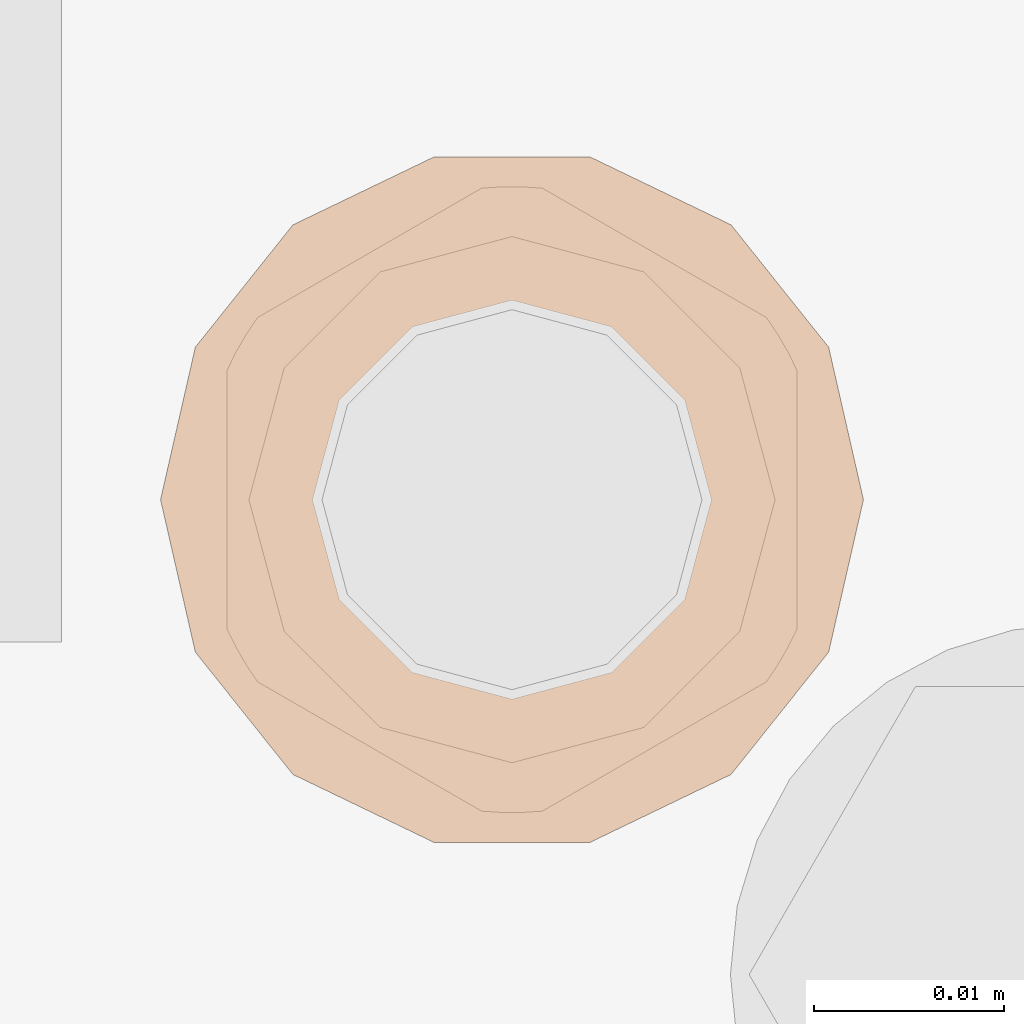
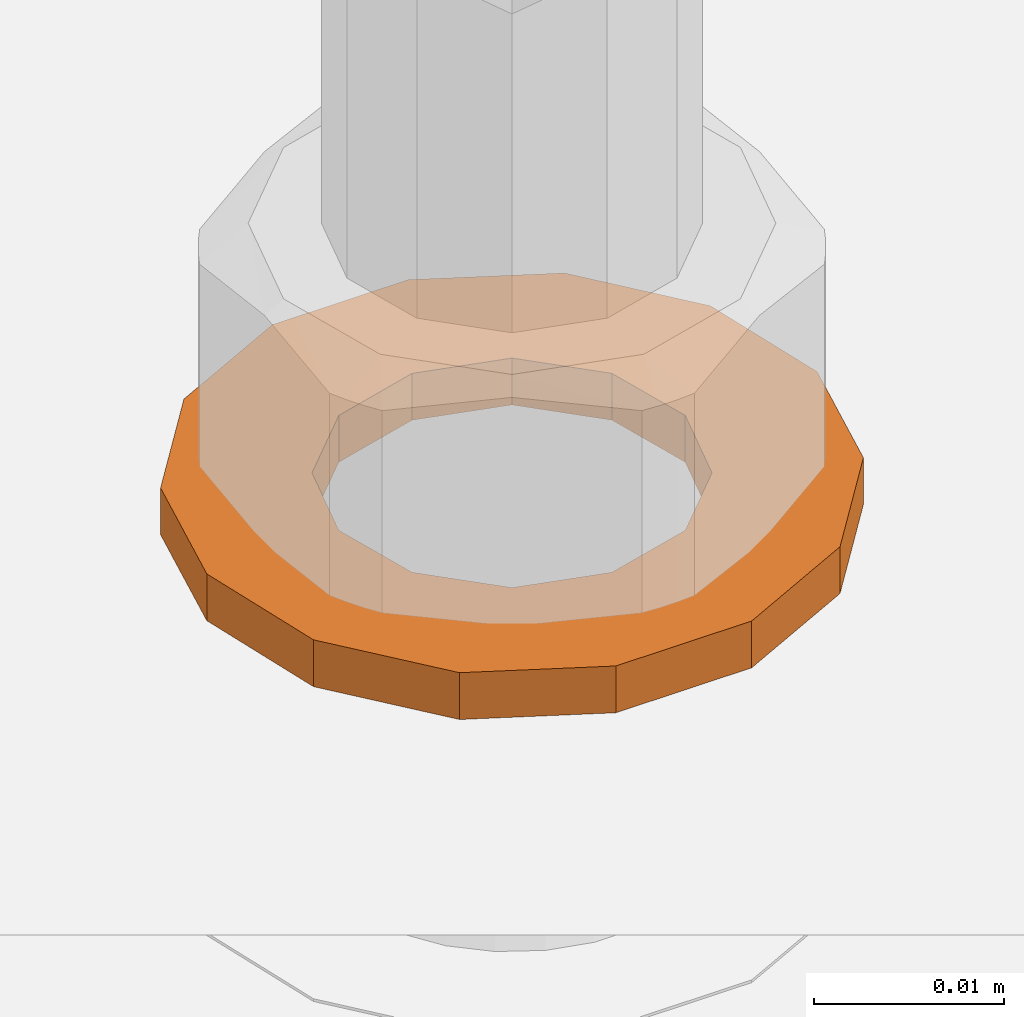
# One storey, part 144 of 145: 1 proxy.
"""IFC2X3 building model written with IfcOpenShell, lengths in millimetres."""

from ifc_helpers import new_model, entity, si_unit, converted_unit, origin_with_axes, place, context, project, spatial, faceted_brep, material, element, save


model = new_model("IFC2X3")

# Units and contexts
model_context = context("Model", 3, precision=1e-09, world=origin_with_axes())
ifc_project = project(units=[si_unit("LENGTHUNIT", "METRE", prefix="MILLI"), si_unit("AREAUNIT", "SQUARE_METRE"), si_unit("VOLUMEUNIT", "CUBIC_METRE"), converted_unit("PLANEANGLEUNIT", "DEGREE", entity("IfcPlaneAngleMeasure", 0.01745329), si_unit("PLANEANGLEUNIT", "RADIAN"), dimensions=[0, 0, 0, 0, 0, 0, 0])], contexts=[model_context])

# Site, building, storey
site_placement = place(None, origin_with_axes())
site = spatial("IfcSite", under=ifc_project, at=site_placement, Name="BZ1 Grund- und Mittelschule 85716 Unterschlei?heim", CompositionType="ELEMENT")
building_placement = place(site_placement, origin_with_axes())
building = spatial("IfcBuilding", under=site, at=building_placement, Name="Struktur 1", CompositionType="ELEMENT")
storey_placement = place(building_placement, origin_with_axes())
storey = spatial("IfcBuildingStorey", under=building, at=storey_placement, Name="Default Storey", CompositionType="ELEMENT", Elevation=0.0)

# Proxy
ifc_material = material(Name="A2")
proxy_placement = place(None, origin_with_axes())
element("IfcBuildingElementProxy", 1, at=proxy_placement, inside=storey, material=ifc_material, ObjectType="-", context=model_context, shape_type="Brep", body=[
    faceted_brep([(20112.379288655, -1510.538117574, -1247.0), (20104.961364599, -1506.965833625, -1247.0), (20096.728090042, -1506.965833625, -1247.0), (20089.310165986, -1510.538117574, -1247.0), (20084.176803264, -1516.975150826, -1247.0), (20082.344727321, -1525.002, -1247.0), (20084.176803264, -1533.028849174, -1247.0), (20089.310165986, -1539.465882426, -1247.0), (20096.728090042, -1543.038166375, -1247.0), (20104.961364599, -1543.038166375, -1247.0), (20112.379288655, -1539.465882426, -1247.0), (20117.512651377, -1533.028849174, -1247.0), (20119.344727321, -1525.002, -1247.0), (20117.512651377, -1516.975150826, -1247.0), (20100.844727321, -1514.502, -1247.0), (20106.094727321, -1515.90873326, -1247.0), (20109.93799406, -1519.752, -1247.0), (20111.344727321, -1525.002, -1247.0), (20109.93799406, -1530.252, -1247.0), (20106.094727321, -1534.09526674, -1247.0), (20100.844727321, -1535.502, -1247.0), (20095.594727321, -1534.09526674, -1247.0), (20091.751460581, -1530.252, -1247.0), (20090.344727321, -1525.002, -1247.0), (20091.751460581, -1519.752, -1247.0), (20095.594727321, -1515.90873326, -1247.0), (20089.310165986, -1510.538117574, -1250.0), (20096.728090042, -1506.965833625, -1250.0), (20104.961364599, -1506.965833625, -1250.0), (20112.379288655, -1510.538117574, -1250.0), (20117.512651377, -1516.975150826, -1250.0), (20119.344727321, -1525.002, -1250.0), (20117.512651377, -1533.028849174, -1250.0), (20112.379288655, -1539.465882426, -1250.0), (20104.961364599, -1543.038166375, -1250.0), (20096.728090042, -1543.038166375, -1250.0), (20089.310165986, -1539.465882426, -1250.0), (20084.176803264, -1533.028849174, -1250.0), (20082.344727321, -1525.002, -1250.0), (20084.176803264, -1516.975150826, -1250.0), (20100.844727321, -1514.502, -1250.0), (20095.594727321, -1515.90873326, -1250.0), (20091.751460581, -1519.752, -1250.0), (20090.344727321, -1525.002, -1250.0), (20091.751460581, -1530.252, -1250.0), (20095.594727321, -1534.09526674, -1250.0), (20100.844727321, -1535.502, -1250.0), (20106.094727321, -1534.09526674, -1250.0), (20109.93799406, -1530.252, -1250.0), (20111.344727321, -1525.002, -1250.0), (20109.93799406, -1519.752, -1250.0), (20106.094727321, -1515.90873326, -1250.0)], [[[0, 1, 2, 3, 4, 5, 6, 7, 8, 9, 10, 11, 12, 13], [14, 15, 16, 17, 18, 19, 20, 21, 22, 23, 24, 25]], [[26, 3, 2, 27]], [[26, 27, 28, 29, 30, 31, 32, 33, 34, 35, 36, 37, 38, 39], [40, 41, 42, 43, 44, 45, 46, 47, 48, 49, 50, 51]], [[3, 26, 39, 4]], [[41, 25, 24, 42]], [[4, 39, 38, 5]], [[25, 41, 40, 14]], [[27, 2, 1, 28]], [[42, 24, 23, 43]], [[5, 38, 37, 6]], [[14, 40, 51, 15]], [[28, 1, 0, 29]], [[43, 23, 22, 44]], [[6, 37, 36, 7]], [[15, 51, 50, 16]], [[29, 0, 13, 30]], [[44, 22, 21, 45]], [[7, 36, 35, 8]], [[16, 50, 49, 17]], [[12, 31, 30, 13]], [[45, 21, 20, 46]], [[8, 35, 34, 9]], [[31, 12, 11, 32]], [[17, 49, 48, 18]], [[10, 33, 32, 11]], [[9, 34, 33, 10]], [[46, 20, 19, 47]], [[18, 48, 47, 19]]]),
])

save(model, "model.ifc")
